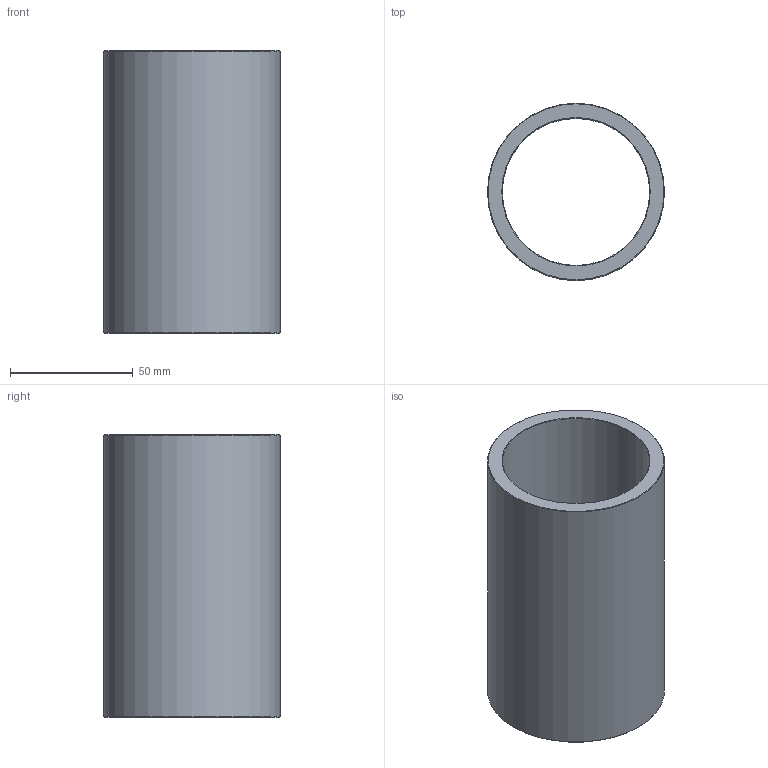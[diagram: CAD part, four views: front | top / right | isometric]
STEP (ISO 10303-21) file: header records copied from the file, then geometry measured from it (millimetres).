
FILE_DESCRIPTION(('STEP AP203'),'1');
FILE_NAME('C:/Users/Rodrigo/Desktop/GA6.060.115-1.step','2016-11-08T13:09:00',(' '),(' '),'Spatial InterOp 3D',' ',' ');
FILE_SCHEMA(('CONFIG_CONTROL_DESIGN'));
Length unit declared in the file: millimetre
Products named in the file (1): 1
Bounding box: 72 x 72 x 115 mm (x, y, z)
Volume: 143051.5 mm3; surface area: 50080.3 mm2
Topology: 1 solids, 1 shells, 8 faces, 14 edges, 8 vertices
Faces by surface type: cone 4, cylinder 2, plane 2
Full cylindrical faces by diameter (mm): 60 x1, 72 x1
Entity records: 212 total; most frequent: DIRECTION 34, CARTESIAN_POINT 25, AXIS2_PLACEMENT_3D 17, EDGE_LOOP 16, ORIENTED_EDGE 16, FACE_OUTER_BOUND 10, ADVANCED_FACE 8, EDGE_CURVE 8
